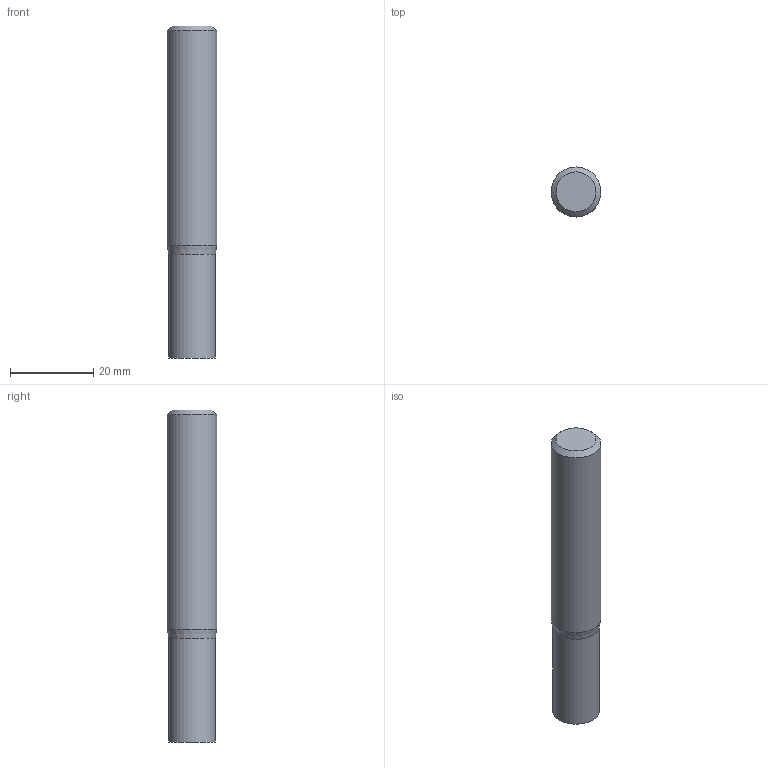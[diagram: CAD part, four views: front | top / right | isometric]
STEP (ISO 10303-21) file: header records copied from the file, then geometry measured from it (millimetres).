
FILE_DESCRIPTION((''),'2;1');
FILE_NAME('C:\Users\nsx150\AppData\Local\Temp\Mastercam 2021\98T1Q6BTT1\TEMP.step','2021-10-21T14:50:23',(''),(''),'STEP Write','Mastercam 2021 ... CNC Software, Inc.','');
FILE_SCHEMA(('AUTOMOTIVE_DESIGN'));
Length unit declared in the file: millimetre
Products named in the file (1): None
Bounding box: 12 x 12 x 80 mm (x, y, z)
Volume: 8687.9 mm3; surface area: 3345.1 mm2
Topology: 2 solids, 2 shells, 8 faces, 10 edges, 6 vertices
Faces by surface type: plane 4, cylinder 2, cone 2
Full cylindrical faces by diameter (mm): 11.3 x1, 12 x1
Entity records: 190 total; most frequent: DIRECTION 32, CARTESIAN_POINT 22, AXIS2_PLACEMENT_3D 16, ORIENTED_EDGE 12, EDGE_LOOP 12, STYLED_ITEM 11, ADVANCED_FACE 8, VERTEX_POINT 6
